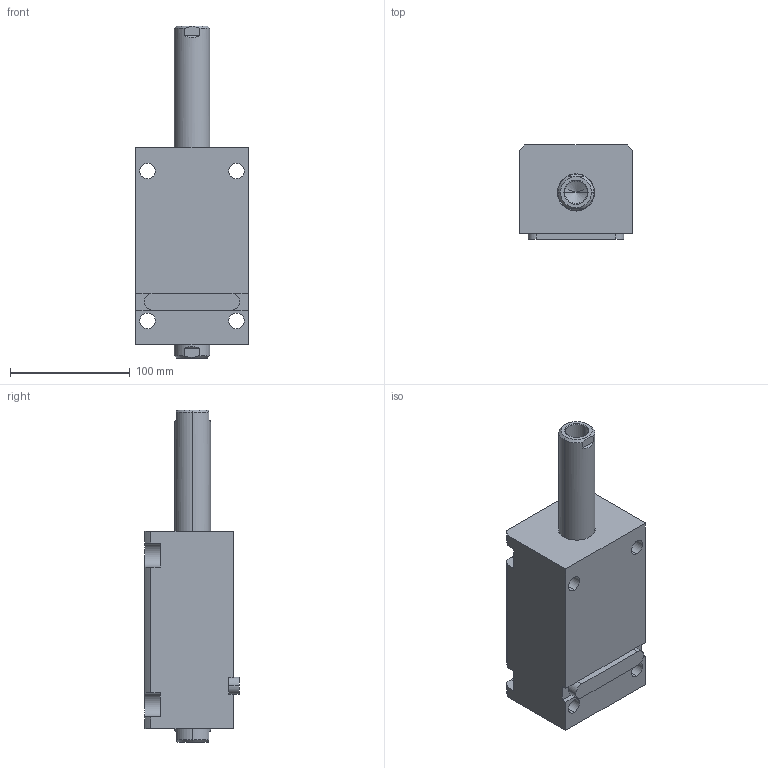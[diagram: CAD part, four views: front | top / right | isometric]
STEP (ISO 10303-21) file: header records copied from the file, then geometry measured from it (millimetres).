
FILE_DESCRIPTION (( 'STEP AP203' ), '1' );
FILE_NAME ('CHTB-LW50-90N.STEP', '2018-05-18T09:22:08', ( '' ), ( '' ), 'SwSTEP 2.0', 'SolidWorks 2015', '' );
FILE_SCHEMA (( 'CONFIG_CONTROL_DESIGN' ));
Length unit declared in the file: millimetre
Products named in the file (4): CHTB-LW50-90N; 活塞杆LW50-90N; CHTM-SDMA50QG; 掛极LW50-90N
Assembly tree (3 placements, depth 2):
  CHTB-LW50-90N
    掛极LW50-90N
    活塞杆LW50-90N
    CHTM-SDMA50QG
Bounding box: 94 x 79 x 277 mm (x, y, z)
Volume: 1039715.7 mm3; surface area: 155012.7 mm2
Topology: 3 solids, 3 shells, 221 faces, 588 edges, 385 vertices
Faces by surface type: cylinder 102, plane 58, cone 31, torus 16, bspline 14
Entity records: 11831 total; most frequent: CARTESIAN_POINT 6126, ORIENTED_EDGE 1160, DIRECTION 1056, EDGE_CURVE 580, AXIS2_PLACEMENT_3D 416, VERTEX_POINT 385, EDGE_LOOP 257, LINE 224
